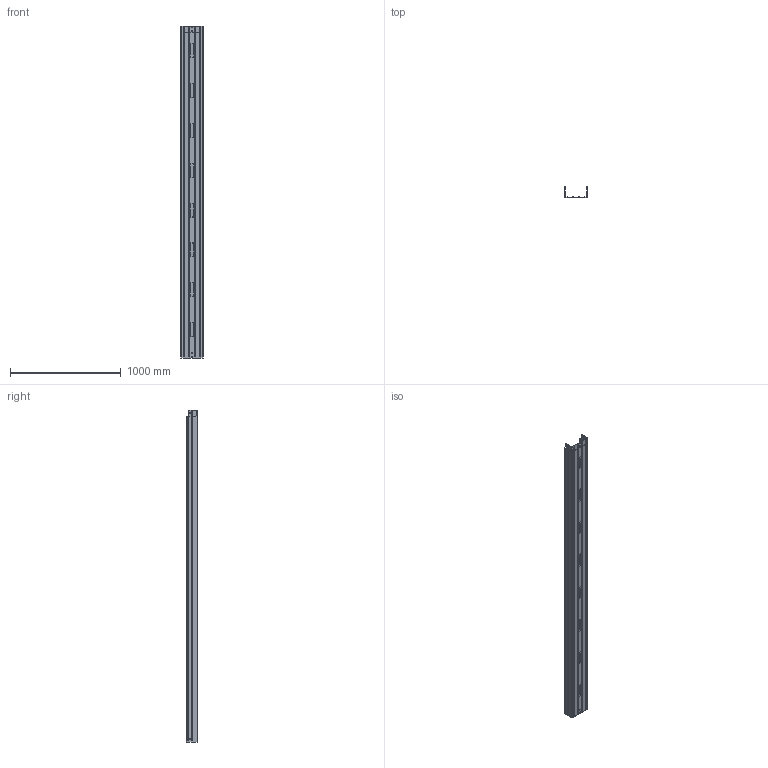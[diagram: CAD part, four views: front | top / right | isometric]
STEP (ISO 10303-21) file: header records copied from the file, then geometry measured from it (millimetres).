
FILE_DESCRIPTION (( 'STEP AP203' ), '1' );
FILE_NAME ('ERE-C 200x100 200x100.step', '2023-07-27T16:26:20', ( '' ), ( '' ), 'SwSTEP 2.0', 'SolidWorks 2022', '' );
FILE_SCHEMA (( 'CONFIG_CONTROL_DESIGN' ));
Products named in the file (1): ERE-C 200x100 200x100
Bounding box: 200 x 100.8 x 3000 mm (x, y, z)
Volume: 751295.9 mm3; surface area: 2489348.5 mm2
Topology: 1 solids, 1 shells, 10156 faces, 29780 edges, 19708 vertices
Faces by surface type: plane 9814, cylinder 222, torus 64, cone 52, bspline 4
Entity records: 330067 total; most frequent: CARTESIAN_POINT 60039, ORIENTED_EDGE 59560, DIRECTION 50488, EDGE_CURVE 29780, VECTOR 29150, LINE 29150, VERTEX_POINT 19708, AXIS2_PLACEMENT_3D 10669
